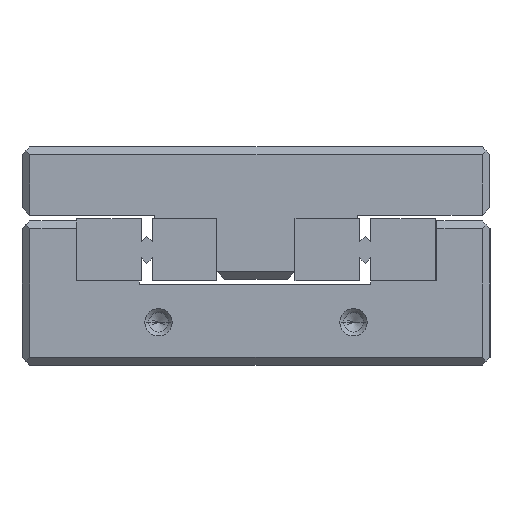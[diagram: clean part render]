
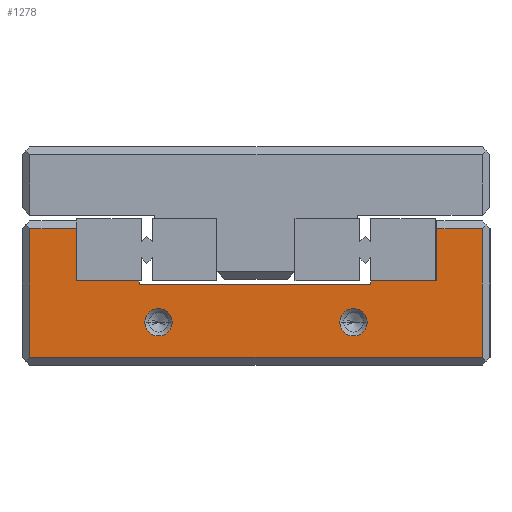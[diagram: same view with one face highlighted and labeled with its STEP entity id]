
A CAD part, left-side view. The second image highlights one B-rep face of the part: STEP entity #1278.
In plain terms, the highlighted planar face has unit normal (-1, 0, 0).
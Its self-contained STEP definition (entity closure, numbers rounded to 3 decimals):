
#1278=ADVANCED_FACE('',(#2235,#2236,#2237),#1540,.T.);
#1540=PLANE('',#8157);
#1931=CIRCLE('',#8153,1.75);
#1932=CIRCLE('',#8154,1.75);
#1933=CIRCLE('',#8155,1.75);
#1934=CIRCLE('',#8156,1.75);
#2235=FACE_BOUND('',#2660,.T.);
#2236=FACE_BOUND('',#2661,.T.);
#2237=FACE_BOUND('',#2662,.T.);
#2660=EDGE_LOOP('',(#4177,#4178,#4179,#4180,#4181,#4182,#4183,#4184,#4185,
#4186,#4187,#4188));
#2661=EDGE_LOOP('',(#4189,#4190));
#2662=EDGE_LOOP('',(#4191,#4192));
#4177=ORIENTED_EDGE('',*,*,#6341,.T.);
#4178=ORIENTED_EDGE('',*,*,#6342,.F.);
#4179=ORIENTED_EDGE('',*,*,#6343,.F.);
#4180=ORIENTED_EDGE('',*,*,#6344,.F.);
#4181=ORIENTED_EDGE('',*,*,#6345,.T.);
#4182=ORIENTED_EDGE('',*,*,#6346,.F.);
#4183=ORIENTED_EDGE('',*,*,#6347,.F.);
#4184=ORIENTED_EDGE('',*,*,#6320,.F.);
#4185=ORIENTED_EDGE('',*,*,#6348,.F.);
#4186=ORIENTED_EDGE('',*,*,#6349,.F.);
#4187=ORIENTED_EDGE('',*,*,#6350,.F.);
#4188=ORIENTED_EDGE('',*,*,#6351,.F.);
#4189=ORIENTED_EDGE('',*,*,#6352,.T.);
#4190=ORIENTED_EDGE('',*,*,#6353,.T.);
#4191=ORIENTED_EDGE('',*,*,#6354,.T.);
#4192=ORIENTED_EDGE('',*,*,#6355,.T.);
#5427=VERTEX_POINT('',#12458);
#5430=VERTEX_POINT('',#12463);
#5451=VERTEX_POINT('',#12507);
#5452=VERTEX_POINT('',#12508);
#5453=VERTEX_POINT('',#12510);
#5454=VERTEX_POINT('',#12512);
#5455=VERTEX_POINT('',#12514);
#5456=VERTEX_POINT('',#12516);
#5457=VERTEX_POINT('',#12518);
#5458=VERTEX_POINT('',#12521);
#5459=VERTEX_POINT('',#12523);
#5460=VERTEX_POINT('',#12525);
#5461=VERTEX_POINT('',#12528);
#5462=VERTEX_POINT('',#12529);
#5463=VERTEX_POINT('',#12532);
#5464=VERTEX_POINT('',#12533);
#6320=EDGE_CURVE('',#5430,#5427,#6970,.T.);
#6341=EDGE_CURVE('',#5451,#5452,#6971,.T.);
#6342=EDGE_CURVE('',#5453,#5452,#6972,.T.);
#6343=EDGE_CURVE('',#5454,#5453,#6973,.T.);
#6344=EDGE_CURVE('',#5455,#5454,#6974,.T.);
#6345=EDGE_CURVE('',#5455,#5456,#6975,.T.);
#6346=EDGE_CURVE('',#5457,#5456,#6976,.T.);
#6347=EDGE_CURVE('',#5427,#5457,#6977,.T.);
#6348=EDGE_CURVE('',#5458,#5430,#6978,.T.);
#6349=EDGE_CURVE('',#5459,#5458,#6979,.T.);
#6350=EDGE_CURVE('',#5460,#5459,#6980,.T.);
#6351=EDGE_CURVE('',#5451,#5460,#6981,.T.);
#6352=EDGE_CURVE('',#5461,#5462,#1931,.T.);
#6353=EDGE_CURVE('',#5462,#5461,#1932,.T.);
#6354=EDGE_CURVE('',#5463,#5464,#1933,.T.);
#6355=EDGE_CURVE('',#5464,#5463,#1934,.T.);
#6970=LINE('',#12464,#7370);
#6971=LINE('',#12506,#7371);
#6972=LINE('',#12509,#7372);
#6973=LINE('',#12511,#7373);
#6974=LINE('',#12513,#7374);
#6975=LINE('',#12515,#7375);
#6976=LINE('',#12517,#7376);
#6977=LINE('',#12519,#7377);
#6978=LINE('',#12520,#7378);
#6979=LINE('',#12522,#7379);
#6980=LINE('',#12524,#7380);
#6981=LINE('',#12526,#7381);
#7370=VECTOR('',#9969,1.);
#7371=VECTOR('',#10012,1.);
#7372=VECTOR('',#10013,1.);
#7373=VECTOR('',#10014,1.);
#7374=VECTOR('',#10015,1.);
#7375=VECTOR('',#10016,1.);
#7376=VECTOR('',#10017,1.);
#7377=VECTOR('',#10018,1.);
#7378=VECTOR('',#10019,1.);
#7379=VECTOR('',#10020,1.);
#7380=VECTOR('',#10021,1.);
#7381=VECTOR('',#10022,1.);
#8153=AXIS2_PLACEMENT_3D('',#12527,#10023,#10024);
#8154=AXIS2_PLACEMENT_3D('',#12530,#10025,#10026);
#8155=AXIS2_PLACEMENT_3D('',#12531,#10027,#10028);
#8156=AXIS2_PLACEMENT_3D('',#12534,#10029,#10030);
#8157=AXIS2_PLACEMENT_3D('',#12535,#10031,#10032);
#9969=DIRECTION('',(0.,-1.,0.));
#10012=DIRECTION('',(0.,0.,-1.));
#10013=DIRECTION('',(0.,1.,0.));
#10014=DIRECTION('',(0.,0.,-1.));
#10015=DIRECTION('',(0.,-1.,0.));
#10016=DIRECTION('',(0.,0.,-1.));
#10017=DIRECTION('',(0.,-1.,0.));
#10018=DIRECTION('',(0.,0.,1.));
#10019=DIRECTION('',(0.,0.,-1.));
#10020=DIRECTION('',(0.,-1.,0.));
#10021=DIRECTION('',(0.,0.,-1.));
#10022=DIRECTION('',(0.,-1.,0.));
#10023=DIRECTION('',(1.,0.,0.));
#10024=DIRECTION('',(0.,0.,1.));
#10025=DIRECTION('',(1.,0.,0.));
#10026=DIRECTION('',(0.,0.,1.));
#10027=DIRECTION('',(1.,0.,0.));
#10028=DIRECTION('',(0.,0.,1.));
#10029=DIRECTION('',(1.,0.,0.));
#10030=DIRECTION('',(0.,0.,1.));
#10031=DIRECTION('',(-1.,0.,0.));
#10032=DIRECTION('',(0.,1.,0.));
#12458=CARTESIAN_POINT('',(-65.,-14.7,10.3));
#12463=CARTESIAN_POINT('',(-65.,15.,10.3));
#12464=CARTESIAN_POINT('',(-65.,15.,10.3));
#12506=CARTESIAN_POINT('',(-65.,29.,17.5));
#12507=CARTESIAN_POINT('',(-65.,29.,17.5));
#12508=CARTESIAN_POINT('',(-65.,29.,1.));
#12509=CARTESIAN_POINT('',(-65.,-29.,1.));
#12510=CARTESIAN_POINT('',(-65.,-29.,1.));
#12511=CARTESIAN_POINT('',(-65.,-29.,17.5));
#12512=CARTESIAN_POINT('',(-65.,-29.,17.5));
#12513=CARTESIAN_POINT('',(-65.,-23.2,17.5));
#12514=CARTESIAN_POINT('',(-65.,-23.2,17.5));
#12515=CARTESIAN_POINT('',(-65.,-23.2,17.5));
#12516=CARTESIAN_POINT('',(-65.,-23.2,10.8));
#12517=CARTESIAN_POINT('',(-65.,-14.7,10.8));
#12518=CARTESIAN_POINT('',(-65.,-14.7,10.8));
#12519=CARTESIAN_POINT('',(-65.,-14.7,10.3));
#12520=CARTESIAN_POINT('',(-65.,15.,10.8));
#12521=CARTESIAN_POINT('',(-65.,15.,10.8));
#12522=CARTESIAN_POINT('',(-65.,23.,10.8));
#12523=CARTESIAN_POINT('',(-65.,23.,10.8));
#12524=CARTESIAN_POINT('',(-65.,23.,17.5));
#12525=CARTESIAN_POINT('',(-65.,23.,17.5));
#12526=CARTESIAN_POINT('',(-65.,29.,17.5));
#12527=CARTESIAN_POINT('',(-65.,-12.5,5.5));
#12528=CARTESIAN_POINT('',(-65.,-10.75,5.5));
#12529=CARTESIAN_POINT('',(-65.,-14.25,5.5));
#12530=CARTESIAN_POINT('',(-65.,-12.5,5.5));
#12531=CARTESIAN_POINT('',(-65.,12.5,5.5));
#12532=CARTESIAN_POINT('',(-65.,14.25,5.5));
#12533=CARTESIAN_POINT('',(-65.,10.75,5.5));
#12534=CARTESIAN_POINT('',(-65.,12.5,5.5));
#12535=CARTESIAN_POINT('',(-65.,30.,0.));
